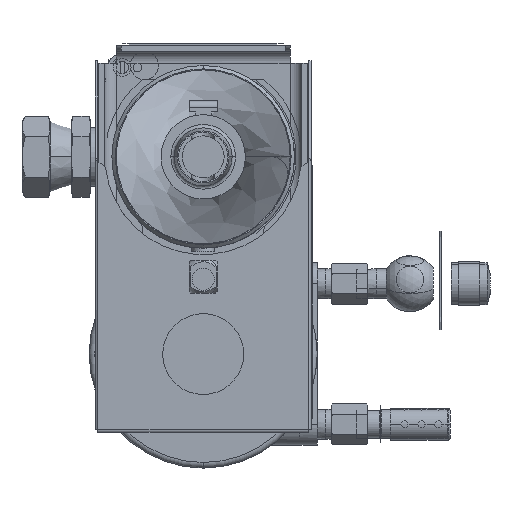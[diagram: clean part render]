
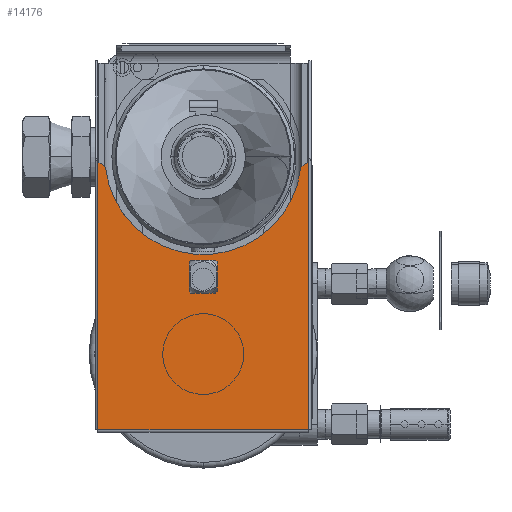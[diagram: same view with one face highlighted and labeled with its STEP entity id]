
A CAD part, front view. The second image highlights one B-rep face of the part: STEP entity #14176.
In plain terms, the highlighted planar face has unit normal (0, -1, 0).
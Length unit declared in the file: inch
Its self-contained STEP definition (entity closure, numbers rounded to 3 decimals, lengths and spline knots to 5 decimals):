
#13829=DIRECTION('',(0.766,0.,-0.642));
#13830=VECTOR('',#13829,0.17845);
#13831=CARTESIAN_POINT('',(-1.875,-1.6,4.44811));
#13832=LINE('',#13831,#13830);
#13833=CARTESIAN_POINT('',(0.,-1.6,4.5362));
#13834=DIRECTION('',(0.,1.,0.));
#13835=DIRECTION('',(0.993,0.,-0.116));
#13836=AXIS2_PLACEMENT_3D('',#13833,#13834,#13835);
#13838=DIRECTION('',(0.766,0.,0.642));
#13839=VECTOR('',#13838,0.17845);
#13840=CARTESIAN_POINT('',(1.73822,-1.6,4.3335));
#13841=LINE('',#13840,#13839);
#13899=DIRECTION('',(0.,0.,1.));
#13900=VECTOR('',#13899,4.78191);
#13901=CARTESIAN_POINT('',(-1.875,-1.6,-0.3338));
#13902=LINE('',#13901,#13900);
#13917=CARTESIAN_POINT('',(-1.875,-1.6,4.44811));
#14001=DIRECTION('',(-1.,0.,0.));
#14002=VECTOR('',#14001,3.75);
#14003=CARTESIAN_POINT('',(1.875,-1.6,-0.3338));
#14004=LINE('',#14003,#14002);
#14069=DIRECTION('',(0.,0.,-1.));
#14070=VECTOR('',#14069,4.78191);
#14071=CARTESIAN_POINT('',(1.875,-1.6,4.44811));
#14072=LINE('',#14071,#14070);
#14073=CARTESIAN_POINT('',(1.875,-1.6,4.44811));
#14089=CARTESIAN_POINT('',(1.875,-1.6,-0.3338));
#14091=VERTEX_POINT('',#14089);
#14103=CARTESIAN_POINT('',(-1.875,-1.6,-0.3338));
#14105=VERTEX_POINT('',#14103);
#14130=VERTEX_POINT('',#14073);
#14134=VERTEX_POINT('',#13917);
#14147=CARTESIAN_POINT('',(-1.73822,-1.6,4.3335));
#14148=VERTEX_POINT('',#14147);
#14149=CARTESIAN_POINT('',(1.73822,-1.6,4.3335));
#14150=VERTEX_POINT('',#14149);
#14157=CARTESIAN_POINT('',(0.,-1.6,6.2362));
#14158=DIRECTION('',(0.,1.,0.));
#14159=DIRECTION('',(-1.,0.,0.));
#14160=AXIS2_PLACEMENT_3D('',#14157,#14158,#14159);
#14161=PLANE('',#14160);
#14163=ORIENTED_EDGE('',*,*,#14162,.T.);
#14165=ORIENTED_EDGE('',*,*,#14164,.F.);
#14167=ORIENTED_EDGE('',*,*,#14166,.T.);
#14169=ORIENTED_EDGE('',*,*,#14168,.T.);
#14171=ORIENTED_EDGE('',*,*,#14170,.T.);
#14173=ORIENTED_EDGE('',*,*,#14172,.T.);
#14174=EDGE_LOOP('',(#14163,#14165,#14167,#14169,#14171,#14173));
#14175=FACE_OUTER_BOUND('',#14174,.F.);
#14176=ADVANCED_FACE('',(#14175),#14161,.F.);
#13837=CIRCLE('',#13836,1.75);
#14162=EDGE_CURVE('',#14134,#14148,#13832,.T.);
#14164=EDGE_CURVE('',#14150,#14148,#13837,.T.);
#14166=EDGE_CURVE('',#14150,#14130,#13841,.T.);
#14168=EDGE_CURVE('',#14130,#14091,#14072,.T.);
#14170=EDGE_CURVE('',#14091,#14105,#14004,.T.);
#14172=EDGE_CURVE('',#14105,#14134,#13902,.T.);
